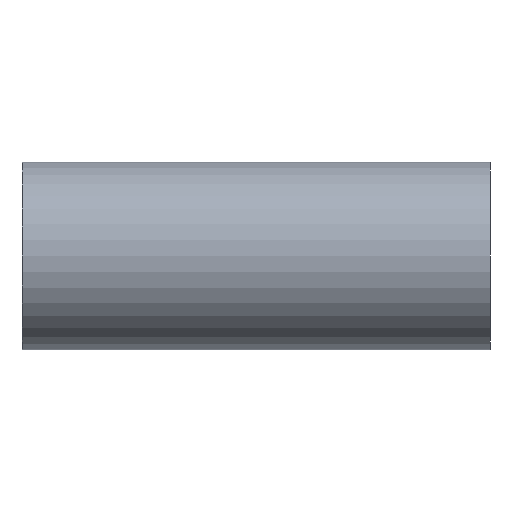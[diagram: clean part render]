
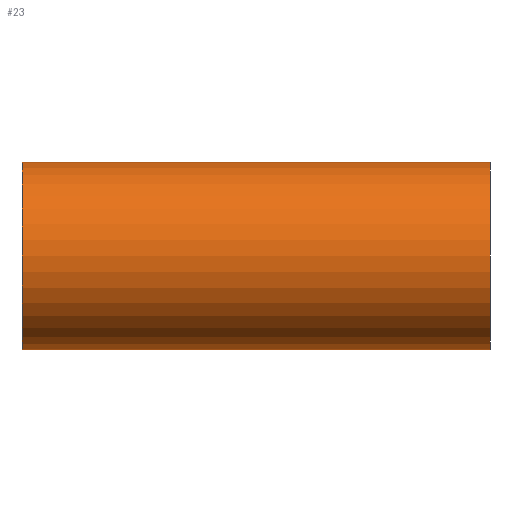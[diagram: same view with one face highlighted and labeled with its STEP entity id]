
A CAD part, left-side view. The second image highlights one B-rep face of the part: STEP entity #23.
In plain terms, the highlighted cylindrical face has radius 1.205 mm (diameter 2.41 mm), a partial arc.
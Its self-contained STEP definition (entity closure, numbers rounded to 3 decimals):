
#23=ADVANCED_FACE('',(#29),#67,.T.);
#29=FACE_OUTER_BOUND('',#35,.F.);
#35=EDGE_LOOP('',(#46,#47,#48,#49));
#46=ORIENTED_EDGE('',*,*,#80,.T.);
#47=ORIENTED_EDGE('',*,*,#85,.F.);
#48=ORIENTED_EDGE('',*,*,#81,.T.);
#49=ORIENTED_EDGE('',*,*,#84,.T.);
#67=CYLINDRICAL_SURFACE('',#200,1.205);
#72=LINE('',#263,#76);
#73=LINE('',#264,#77);
#76=VECTOR('',#221,6.);
#77=VECTOR('',#222,6.);
#80=EDGE_CURVE('',#101,#100,#92,.T.);
#81=EDGE_CURVE('',#99,#98,#93,.T.);
#84=EDGE_CURVE('',#98,#101,#72,.T.);
#85=EDGE_CURVE('',#99,#100,#73,.T.);
#92=CIRCLE('',#193,1.205);
#93=CIRCLE('',#194,1.205);
#98=VERTEX_POINT('',#249);
#99=VERTEX_POINT('',#250);
#100=VERTEX_POINT('',#251);
#101=VERTEX_POINT('',#252);
#193=AXIS2_PLACEMENT_3D('',#259,#215,#216);
#194=AXIS2_PLACEMENT_3D('',#260,#217,#218);
#200=AXIS2_PLACEMENT_3D('',#270,#233,#234);
#215=DIRECTION('',(0.,-1.,0.));
#216=DIRECTION('',(0.,0.,1.));
#217=DIRECTION('',(0.,1.,0.));
#218=DIRECTION('',(0.,0.,-1.));
#221=DIRECTION('',(0.,-1.,0.));
#222=DIRECTION('',(0.,-1.,0.));
#233=DIRECTION('',(0.,-1.,0.));
#234=DIRECTION('',(0.,0.,1.));
#249=CARTESIAN_POINT('',(195.,11.725,222.98));
#250=CARTESIAN_POINT('',(195.,11.725,220.57));
#251=CARTESIAN_POINT('',(195.,5.725,220.57));
#252=CARTESIAN_POINT('',(195.,5.725,222.98));
#259=CARTESIAN_POINT('',(195.,5.725,221.775));
#260=CARTESIAN_POINT('',(195.,11.725,221.775));
#263=CARTESIAN_POINT('',(195.,11.725,222.98));
#264=CARTESIAN_POINT('',(195.,11.725,220.57));
#270=CARTESIAN_POINT('',(195.,11.725,221.775));
